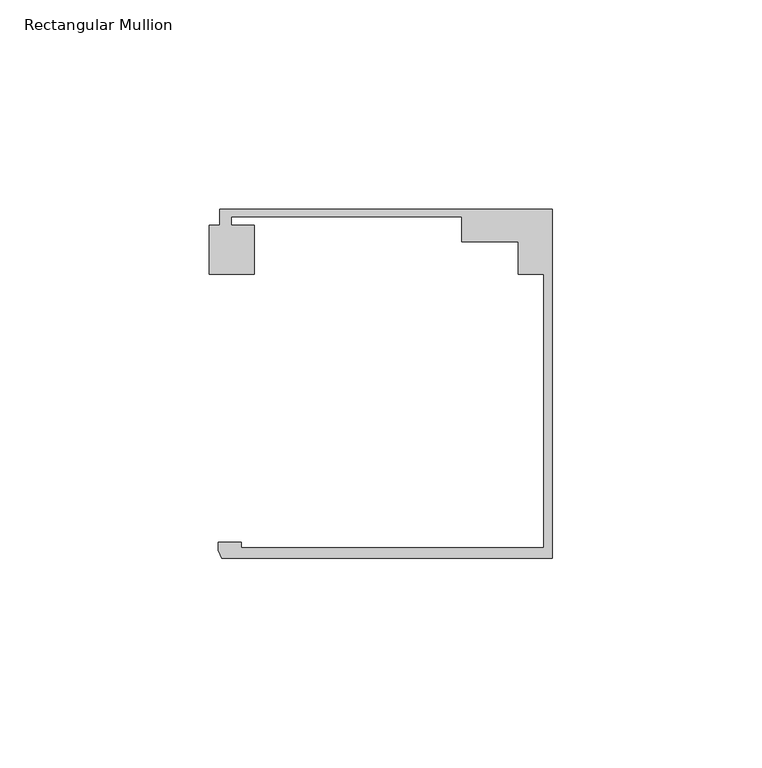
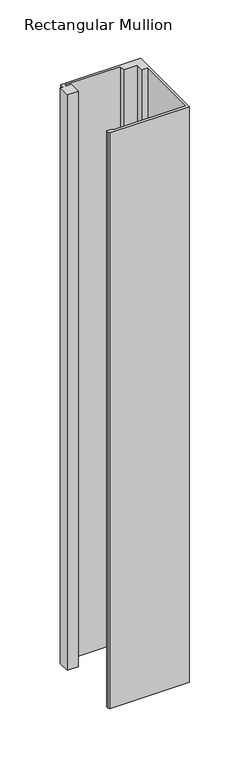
"""IFC4 building model written with IfcOpenShell, lengths in millimetres: member geometry, Rectangular Mullion : Danpal_Airpt_End-Mullion_B2."""

from ifc_helpers import new_model, si_unit, frame, origin, place, context, project, spatial, polyline, outline, extrude, source, transform, mapped, element, save


def rectangular_mullion_98b11ca7(model_context):
    return source(origin(), model_context, "Body", "SweptSolid", [
        extrude(outline(polyline([(-2.0000001, -74.9940824), (-2.0000001, -9.7188964), (-8.1, -9.7188964), (-8.1, -1.8818054), (-21.5478166, -1.8818054), (-21.5478166, 4.0051512), (-76.6478166, 4.0051512), (-76.6478166, 2.0051513), (-71.1433532, 2.0051513), (-71.1433532, -9.6875514), (-81.8592324, -9.6875514), (-81.8592324, 2.0051513), (-79.3474874, 2.0051513), (-79.3474874, 5.8051514), (0.0, 5.8051514), (0.0, -77.4940825), (-78.8515009, -77.4940825), (-79.7784606, -75.5472671), (-79.7784606, -73.6940824), (-74.2474668, -73.6940824), (-74.2474668, -74.9940824), (-2.0000001, -74.9940824)])), frame((0.0, 0.0, -603.1348638), z_axis=(0.0, 0.0, 1.0), x_axis=(1.0, 0.0, 0.0)), (0.0, 0.0, 1.0), 603.1348638),
    ])


if __name__ == "__main__":
    model = new_model("IFC4")
    model_context = context("Model", 3, world=origin())
    ifc_project = project(units=[si_unit("LENGTHUNIT", "METRE", prefix="MILLI")], contexts=[model_context])
    site = spatial("IfcSite", under=ifc_project)
    building = spatial("IfcBuilding", under=site)
    placement = place(None, origin())
    rectangular_mullion_shape = rectangular_mullion_98b11ca7(model_context)
    element("IfcMember", 1, ObjectType="Rectangular Mullion : Danpal_Airpt_End-Mullion_B2", at=placement, inside=building, context=model_context, shape_type="MappedRepresentation", body=[
        mapped(rectangular_mullion_shape, transform((0.0, 0.0, 0.0), x_axis=(1.0, 0.0, 0.0), y_axis=(0.0, 1.0, 0.0), z_axis=(0.0, 0.0, 1.0))),
    ])
    save(model, "model.ifc")
